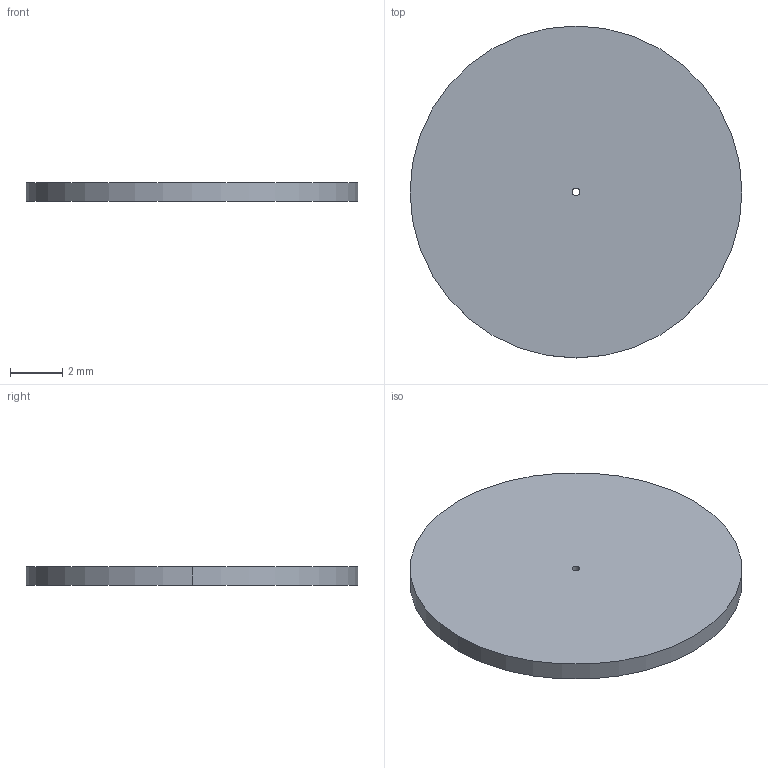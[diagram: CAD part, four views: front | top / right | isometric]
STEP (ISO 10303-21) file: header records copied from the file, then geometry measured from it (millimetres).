
FILE_DESCRIPTION((''),'2;1');
FILE_NAME('03MM','2022-04-24T',('Administrator'),(''),'CREO PARAMETRIC BY PTC INC, 2015290','CREO PARAMETRIC BY PTC INC, 2015290','');
FILE_SCHEMA(('CONFIG_CONTROL_DESIGN'));
Length unit declared in the file: millimetre
Products named in the file (1): 03MM
Bounding box: 12.7 x 12.7 x 0.7 mm (x, y, z)
Volume: 88.6 mm3; surface area: 281.8 mm2
Topology: 1 solids, 1 shells, 6 faces, 12 edges, 8 vertices
Faces by surface type: cylinder 4, plane 2
Entity records: 206 total; most frequent: DIRECTION 32, CARTESIAN_POINT 26, ORIENTED_EDGE 24, AXIS2_PLACEMENT_3D 14, EDGE_CURVE 12, VERTEX_POINT 8, EDGE_LOOP 8, CIRCLE 8
